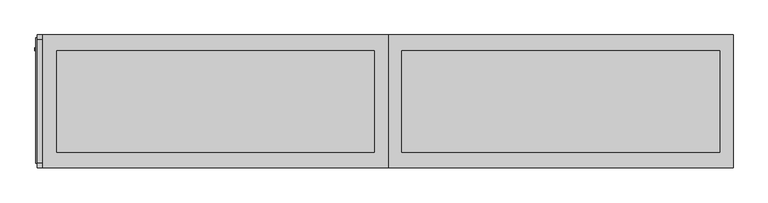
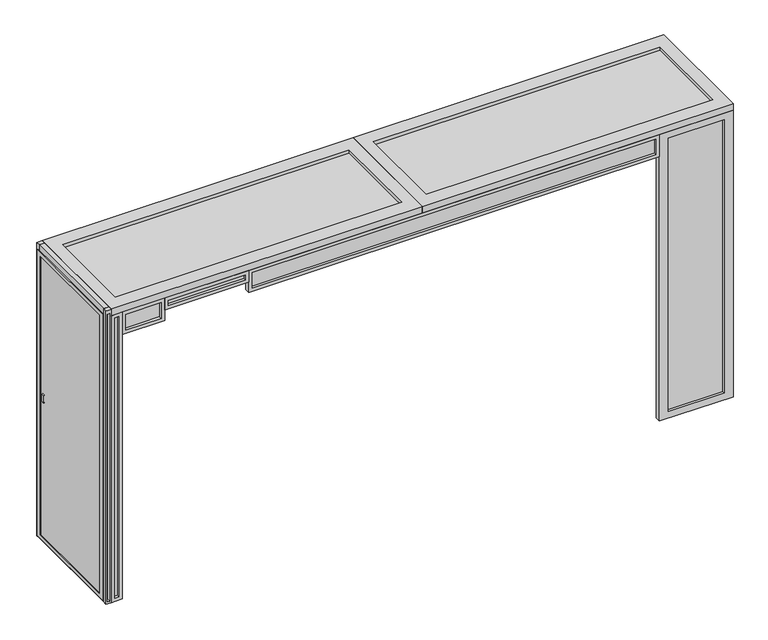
"""IFC4 building model written with IfcOpenShell, lengths in millimetres: beam geometry, Inside Partition Config-6 : Inside Partition Config-6."""

from ifc_helpers import new_model, si_unit, frame, origin, place, context, project, spatial, polyline, outline, extrude, source, transform, mapped, element, save


def beam_32ef51aa(model_context):
    return source(origin(), model_context, "Body", "SweptSolid", [
        extrude(outline(polyline([(92.0, -406.5), (63.0, -406.5), (63.0, -387.5), (92.0, -387.5), (92.0, -406.5)])), frame((0.0, 0.0, 449.0), z_axis=(0.0, 0.0, 1.0), x_axis=(1.0, 0.0, 0.0)), (0.0, 0.0, 1.0), 2108.0),
        extrude(outline(polyline([(2582.0, 117.0), (2582.0, 38.0), (424.0, 38.0), (424.0, 117.0), (2582.0, 117.0)]), holes=[polyline([(2557.0, 92.0), (449.0, 92.0), (449.0, 63.0), (2557.0, 63.0), (2557.0, 92.0)])]), frame((0.0, -425.5, 0.0), z_axis=(0.0, 1.0, 0.0), x_axis=(0.0, 0.0, 1.0)), (0.0, 0.0, 1.0), 38.0),
        extrude(outline(polyline([(992.0, -406.5), (442.0, -406.5), (442.0, -387.5), (992.0, -387.5), (992.0, -406.5)])), frame((0.0, 0.0, 2519.0), z_axis=(0.0, 0.0, 1.0), x_axis=(1.0, 0.0, 0.0)), (0.0, 0.0, 1.0), 38.0),
        extrude(outline(polyline([(2582.0, 1017.0), (2582.0, 417.0), (2494.0, 417.0), (2494.0, 1017.0), (2582.0, 1017.0)]), holes=[polyline([(2557.0, 992.0), (2519.0, 992.0), (2519.0, 442.0), (2557.0, 442.0), (2557.0, 992.0)])]), frame((0.0, -425.5, 0.0), z_axis=(0.0, 1.0, 0.0), x_axis=(0.0, 0.0, 1.0)), (0.0, 0.0, 1.0), 38.0),
        extrude(outline(polyline([(392.0, -406.5), (142.0, -406.5), (142.0, -387.5), (392.0, -387.5), (392.0, -406.5)])), frame((0.0, 0.0, 2440.0), z_axis=(0.0, 0.0, 1.0), x_axis=(1.0, 0.0, 0.0)), (0.0, 0.0, 1.0), 117.0),
        extrude(outline(polyline([(2582.0, 417.0), (2582.0, 117.0), (2415.0, 117.0), (2415.0, 417.0), (2582.0, 417.0)]), holes=[polyline([(2557.0, 392.0), (2440.0, 392.0), (2440.0, 142.0), (2557.0, 142.0), (2557.0, 392.0)])]), frame((0.0, -425.5, 0.0), z_axis=(0.0, 1.0, 0.0), x_axis=(0.0, 0.0, 1.0)), (0.0, 0.0, 1.0), 38.0),
        extrude(outline(polyline([(1540.2462614, -11.5499185), (1544.0, -3.5), (1546.2067558, -3.5), (1541.5204019, -13.5499185), (1491.4795981, -13.5499185), (1486.7932442, -3.5), (1489.0, -3.5), (1492.7537386, -11.5499185), (1540.2462614, -11.5499185)])), frame((0.0, 324.5, 0.0), z_axis=(0.0, 1.0, 0.0), x_axis=(0.0, 0.0, 1.0)), (0.0, 0.0, 1.0), 20.0),
        extrude(outline(polyline([(-3.5, -358.0), (-3.5, 367.0), (5.5, 367.0), (5.5, -358.0), (-3.5, -358.0)])), frame((0.0, 0.0, 468.0), z_axis=(0.0, 0.0, 1.0), x_axis=(1.0, 0.0, 0.0)), (0.0, 0.0, 1.0), 2097.0),
        extrude(outline(polyline([(-398.0, 2592.0), (407.0, 2592.0), (407.0, 441.0), (-398.0, 441.0), (-398.0, 2592.0)]), holes=[polyline([(-358.0, 2565.0), (-358.0, 468.0), (367.0, 468.0), (367.0, 2565.0), (-358.0, 2565.0)])]), frame((-8.0, 0.0, 0.0), z_axis=(1.0, 0.0, 0.0), x_axis=(0.0, 1.0, 0.0)), (0.0, 0.0, 1.0), 18.0),
        extrude(outline(polyline([(2163.0, 325.5), (2163.0, -325.5), (125.0, -325.5), (125.0, 325.5), (2163.0, 325.5)])), frame((0.0, 0.0, 2582.0), z_axis=(0.0, 0.0, 1.0), x_axis=(1.0, 0.0, 0.0)), (0.0, 0.0, 1.0), 25.0),
        extrude(outline(polyline([(2250.0, 425.5), (2250.0, -425.5), (38.0, -425.5), (38.0, 425.5), (2250.0, 425.5)]), holes=[polyline([(2163.0, 325.5), (125.0, 325.5), (125.0, -325.5), (2163.0, -325.5), (2163.0, 325.5)])]), frame((0.0, 0.0, 2582.0), z_axis=(0.0, 0.0, 1.0), x_axis=(1.0, 0.0, 0.0)), (0.0, 0.0, 1.0), 50.0),
        extrude(outline(polyline([(3913.0, -406.5), (1042.0, -406.5), (1042.0, -387.5), (3913.0, -387.5), (3913.0, -406.5)])), frame((0.0, 0.0, 2440.0), z_axis=(0.0, 0.0, 1.0), x_axis=(1.0, 0.0, 0.0)), (0.0, 0.0, 1.0), 117.0),
        extrude(outline(polyline([(2582.0, 3938.0), (2582.0, 1017.0), (2415.0, 1017.0), (2415.0, 3938.0), (2582.0, 3938.0)]), holes=[polyline([(2557.0, 3913.0), (2440.0, 3913.0), (2440.0, 1042.0), (2557.0, 1042.0), (2557.0, 3913.0)])]), frame((0.0, -425.5, 0.0), z_axis=(0.0, 1.0, 0.0), x_axis=(0.0, 0.0, 1.0)), (0.0, 0.0, 1.0), 38.0),
        extrude(outline(polyline([(4375.0, 325.5), (4375.0, -325.5), (2337.0, -325.5), (2337.0, 325.5), (4375.0, 325.5)])), frame((0.0, 0.0, 2582.0), z_axis=(0.0, 0.0, 1.0), x_axis=(1.0, 0.0, 0.0)), (0.0, 0.0, 1.0), 25.0),
        extrude(outline(polyline([(4462.0, 425.5), (4462.0, -425.5), (2250.0, -425.5), (2250.0, 425.5), (4462.0, 425.5)]), holes=[polyline([(4375.0, 325.5), (2337.0, 325.5), (2337.0, -325.5), (4375.0, -325.5), (4375.0, 325.5)])]), frame((0.0, 0.0, 2582.0), z_axis=(0.0, 0.0, 1.0), x_axis=(1.0, 0.0, 0.0)), (0.0, 0.0, 1.0), 50.0),
        extrude(outline(polyline([(4399.0, -406.5), (4001.0, -406.5), (4001.0, -387.5), (4399.0, -387.5), (4399.0, -406.5)])), frame((0.0, 0.0, 474.0), z_axis=(0.0, 0.0, 1.0), x_axis=(1.0, 0.0, 0.0)), (0.0, 0.0, 1.0), 2058.0),
        extrude(outline(polyline([(2582.0, 4462.0), (2582.0, 3938.0), (424.0, 3938.0), (424.0, 4462.0), (2582.0, 4462.0)]), holes=[polyline([(2532.0, 4399.0), (474.0, 4399.0), (474.0, 4001.0), (2532.0, 4001.0), (2532.0, 4399.0)])]), frame((0.0, -425.5, 0.0), z_axis=(0.0, 1.0, 0.0), x_axis=(0.0, 0.0, 1.0)), (0.0, 0.0, 1.0), 38.0),
        extrude(outline(polyline([(2632.0, 38.0), (2632.0, 0.0), (424.0, 0.0), (424.0, 38.0), (2632.0, 38.0)]), holes=[polyline([(2597.0, 28.0), (439.0, 28.0), (439.0, 10.0), (2597.0, 10.0), (2597.0, 28.0)])]), frame((0.0, 397.0, 0.0), z_axis=(0.0, 1.0, 0.0), x_axis=(0.0, 0.0, 1.0)), (0.0, 0.0, 1.0), 29.0),
        extrude(outline(polyline([(2632.0, 38.0), (2632.0, 0.0), (424.0, 0.0), (424.0, 38.0), (2632.0, 38.0)]), holes=[polyline([(2602.0, 28.0), (439.0, 28.0), (439.0, 10.0), (2602.0, 10.0), (2602.0, 28.0)])]), frame((0.0, -426.0, 0.0), z_axis=(0.0, 1.0, 0.0), x_axis=(0.0, 0.0, 1.0)), (0.0, 0.0, 1.0), 29.0),
        extrude(outline(polyline([(454.0, 0.0), (424.0, 0.0), (424.0, 38.0), (454.0, 38.0), (454.0, 29.0), (440.875, 29.0), (440.875, 9.0), (454.0, 9.0), (454.0, 0.0)])), frame((0.0, -397.0, 0.0), z_axis=(0.0, 1.0, 0.0), x_axis=(0.0, 0.0, 1.0)), (0.0, 0.0, 1.0), 794.0),
        extrude(outline(polyline([(2565.0, 0.0), (2565.0, 9.0), (2593.0, 9.0), (2593.0, 29.0), (2565.0, 29.0), (2565.0, 38.0), (2632.0, 38.0), (2632.0, 0.0), (2565.0, 0.0)])), frame((0.0, -397.0, 0.0), z_axis=(0.0, 1.0, 0.0), x_axis=(0.0, 0.0, 1.0)), (0.0, 0.0, 1.0), 794.0),
    ])


if __name__ == "__main__":
    model = new_model("IFC4")
    model_context = context("Model", 3, world=origin())
    ifc_project = project(units=[si_unit("LENGTHUNIT", "METRE", prefix="MILLI")], contexts=[model_context])
    site = spatial("IfcSite", under=ifc_project)
    building = spatial("IfcBuilding", under=site)
    placement = place(None, origin())
    beam_shape = beam_32ef51aa(model_context)
    element("IfcBeam", 1, ObjectType="Inside Partition Config-6 : Inside Partition Config-6", at=placement, inside=building, context=model_context, shape_type="MappedRepresentation", body=[
        mapped(beam_shape, transform((0.0, 0.0, 0.0), x_axis=(1.0, 0.0, 0.0), y_axis=(0.0, 1.0, 0.0), z_axis=(0.0, 0.0, 1.0))),
    ])
    save(model, "model.ifc")
